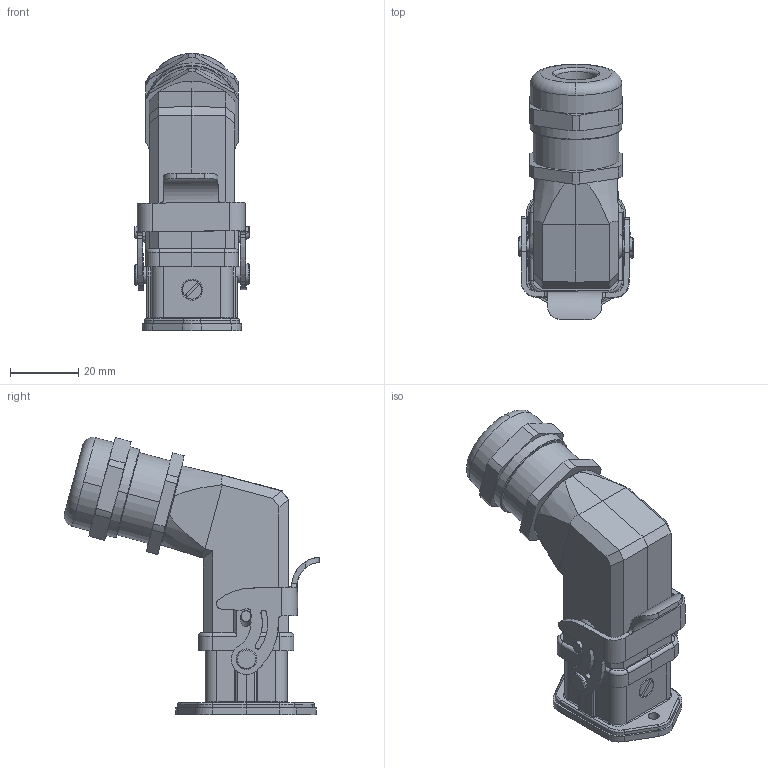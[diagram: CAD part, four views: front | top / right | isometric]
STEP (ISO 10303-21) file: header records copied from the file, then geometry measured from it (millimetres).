
FILE_DESCRIPTION(/* description */ (''),/* implementation_level */ '2;1');
FILE_NAME(/* name */ '09003001120P H3A HA-003、 开孔底座、侧出结构M20套件_stp.stp',/* time_stamp */ '2023-11-01T16:11:00+08:00',/* author */ (''),/* organization */ (''),/* preprocessor_version */ 'ST-DEVELOPER v16.7',/* originating_system */ 'SIEMENS PLM Software NX 12.0',/* authorisation */ '');
FILE_SCHEMA (('AUTOMOTIVE_DESIGN { 1 0 10303 214 3 1 1 1 }'));
Length unit declared in the file: millimetre
Products named in the file (6): H3A-MTS-M20_step; H3A-MAG_step; HA-003-M_stp; HA-003-F_stp; FAS-20-M_step; 09003001120 H3A HA 4针、 开孔底座、侧出结构M
20套件_stp
Assembly tree (5 placements, depth 2):
  09003001120 H3A HA 4针、 开孔底座、侧出结构M
20套件_stp
    FAS-20-M_step
    HA-003-F_stp
    HA-003-M_stp
    H3A-MAG_step
    H3A-MTS-M20_step
Bounding box: 33.67 x 74.87 x 81.23 mm (x, y, z)
Volume: 46803.9 mm3; surface area: 34840.1 mm2
Topology: 7 solids, 7 shells, 1370 faces, 3728 edges, 2416 vertices
Faces by surface type: plane 687, cylinder 441, torus 78, extrusion 67, cone 47, bspline 34, revolution 8, sphere 8
Full cylindrical faces by diameter (mm): 0.8 x1, 0.854 x1, 1.117 x1, 1.157 x1, 1.58 x3, 1.6 x1, 1.75 x3, 2 x3, 2.048 x1, 2.088 x1, 2.7 x5, 2.75 x3, 3 x2, 3.15 x4, 3.35 x1, 3.38 x1, 3.4 x8, 5.5 x1
Entity records: 51963 total; most frequent: CARTESIAN_POINT 13433, ORIENTED_EDGE 7234, DIRECTION 6725, EDGE_CURVE 3617, VERTEX_POINT 2369, AXIS2_PLACEMENT_3D 2301, VECTOR 2115, LINE 2048
